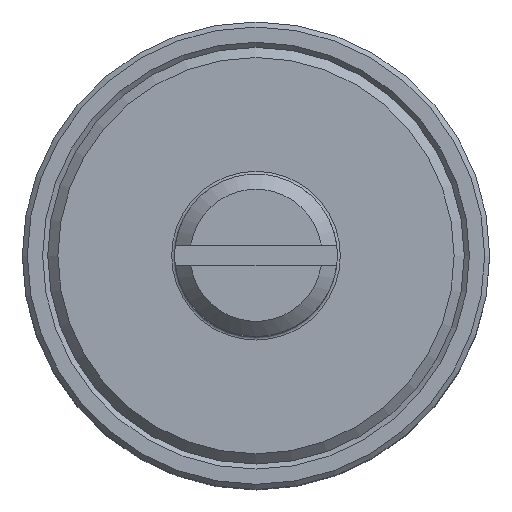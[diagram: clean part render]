
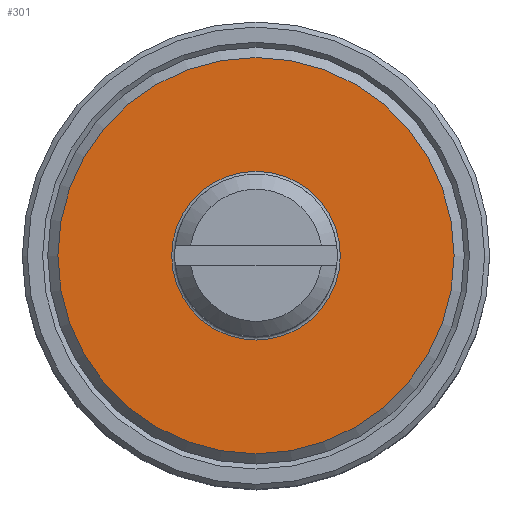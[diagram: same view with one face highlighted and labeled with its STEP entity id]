
A CAD part, top view. The second image highlights one B-rep face of the part: STEP entity #301.
In plain terms, the highlighted planar face has unit normal (0, 0, 1).
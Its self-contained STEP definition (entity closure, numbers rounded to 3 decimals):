
#19=FACE_BOUND('',#100,.T.);
#65=PLANE('',#332);
#77=FACE_OUTER_BOUND('',#99,.T.);
#99=EDGE_LOOP('',(#234));
#100=EDGE_LOOP('',(#235));
#134=CIRCLE('',#333,19.5);
#135=CIRCLE('',#334,8.3);
#160=VERTEX_POINT('',#503);
#161=VERTEX_POINT('',#505);
#192=EDGE_CURVE('',#160,#160,#134,.T.);
#193=EDGE_CURVE('',#161,#161,#135,.T.);
#234=ORIENTED_EDGE('',*,*,#192,.T.);
#235=ORIENTED_EDGE('',*,*,#193,.F.);
#301=ADVANCED_FACE('',(#77,#19),#65,.T.);
#332=AXIS2_PLACEMENT_3D('',#502,#399,#400);
#333=AXIS2_PLACEMENT_3D('',#504,#401,#402);
#334=AXIS2_PLACEMENT_3D('',#506,#403,#404);
#399=DIRECTION('center_axis',(0.,0.,1.));
#400=DIRECTION('ref_axis',(1.,0.,0.));
#401=DIRECTION('center_axis',(0.,0.,1.));
#402=DIRECTION('ref_axis',(0.,-1.,0.));
#403=DIRECTION('center_axis',(0.,0.,1.));
#404=DIRECTION('ref_axis',(0.,-1.,0.));
#502=CARTESIAN_POINT('Origin',(0.,-4.15,0.));
#503=CARTESIAN_POINT('',(0.,-19.5,0.));
#504=CARTESIAN_POINT('Origin',(0.,0.,0.));
#505=CARTESIAN_POINT('',(0.,-8.3,0.));
#506=CARTESIAN_POINT('Origin',(0.,0.,0.));
